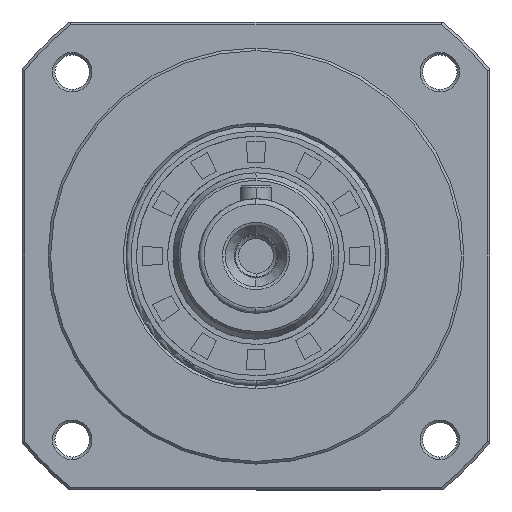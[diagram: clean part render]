
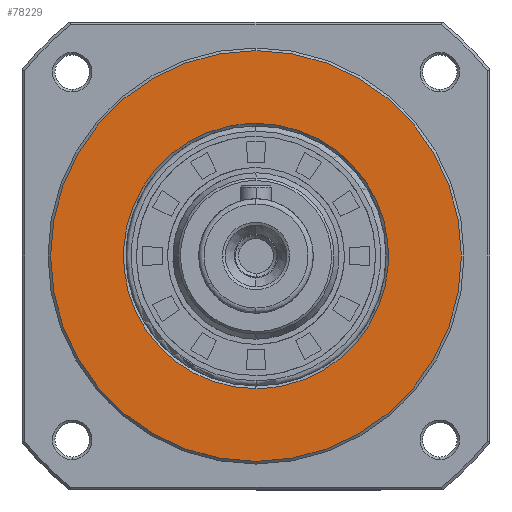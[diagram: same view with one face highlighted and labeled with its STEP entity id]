
A CAD part, left-side view. The second image highlights one B-rep face of the part: STEP entity #78229.
In plain terms, the highlighted planar face has unit normal (-1, 0, 0).
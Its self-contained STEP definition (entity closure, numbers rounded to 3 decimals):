
#996 = CARTESIAN_POINT ( 'NONE',  ( 0., 1.674, -25.5 ) ) ;
#2250 = DIRECTION ( 'NONE',  ( 0., 0., -1. ) ) ;
#2404 = CARTESIAN_POINT ( 'NONE',  ( 0., -16.848, -19.215 ) ) ;
#2755 = CARTESIAN_POINT ( 'NONE',  ( 0., 0., -25.5 ) ) ;
#3087 = CARTESIAN_POINT ( 'NONE',  ( 0., 24.2, 8.212 ) ) ;
#3290 = CARTESIAN_POINT ( 'NONE',  ( 0., -39.974, 39.974 ) ) ;
#4096 = EDGE_CURVE ( 'NONE', #65123, #83948, #41335, .T. ) ;
#8485 = CARTESIAN_POINT ( 'NONE',  ( 0., -3.333, 25.337 ) ) ;
#9551 = CARTESIAN_POINT ( 'NONE',  ( 0., -1.674, -25.5 ) ) ;
#9905 = CARTESIAN_POINT ( 'NONE',  ( 0., 3.333, 25.337 ) ) ;
#10240 = CARTESIAN_POINT ( 'NONE',  ( 0., 24.2, -8.212 ) ) ;
#10245 = CARTESIAN_POINT ( 'NONE',  ( 0., -22.132, -12.775 ) ) ;
#10593 = CARTESIAN_POINT ( 'NONE',  ( 0., 11.305, -22.918 ) ) ;
#10597 = CARTESIAN_POINT ( 'NONE',  ( 0., -12.775, -22.133 ) ) ;
#10946 = CARTESIAN_POINT ( 'NONE',  ( 0., -22.918, 11.305 ) ) ;
#11135 = PLANE ( 'NONE',  #36632 ) ;
#13958 = CIRCLE ( 'NONE', #34849, 39.5 ) ;
#16751 = AXIS2_PLACEMENT_3D ( 'NONE', #91808, #59448, #92499 ) ;
#17376 = CARTESIAN_POINT ( 'NONE',  ( 0., -8.212, -24.2 ) ) ;
#18420 = CARTESIAN_POINT ( 'NONE',  ( 0., 8.212, 24.2 ) ) ;
#18618 = ORIENTED_EDGE ( 'NONE', *, *, #85275, .T. ) ;
#18624 = DIRECTION ( 'NONE',  ( 1., 0., 0. ) ) ;
#18780 = CARTESIAN_POINT ( 'NONE',  ( 0., -20.272, 15.559 ) ) ;
#19115 = CARTESIAN_POINT ( 'NONE',  ( 0., 25.5, 1.674 ) ) ;
#20089 = FACE_BOUND ( 'NONE', #70609, .T. ) ;
#25924 = CARTESIAN_POINT ( 'NONE',  ( 0., 1.675, 25.5 ) ) ;
#26282 = CARTESIAN_POINT ( 'NONE',  ( 0., 22.918, 11.305 ) ) ;
#26286 = CARTESIAN_POINT ( 'NONE',  ( 0., -6.617, -24.683 ) ) ;
#26979 = CARTESIAN_POINT ( 'NONE',  ( 0., -11.305, -22.918 ) ) ;
#29717 = EDGE_CURVE ( 'NONE', #83948, #65123, #13958, .T. ) ;
#32689 = CARTESIAN_POINT ( 'NONE',  ( 0., -1.674, 25.5 ) ) ;
#34460 = CARTESIAN_POINT ( 'NONE',  ( 0., -25.337, 3.333 ) ) ;
#34849 = AXIS2_PLACEMENT_3D ( 'NONE', #72835, #79979, #73185 ) ;
#35371 = ORIENTED_EDGE ( 'NONE', *, *, #29717, .F. ) ;
#36632 = AXIS2_PLACEMENT_3D ( 'NONE', #3290, #18624, #2250 ) ;
#37085 = VERTEX_POINT ( 'NONE', #76371 ) ;
#38087 = VERTEX_POINT ( 'NONE', #69382 ) ;
#40546 = CARTESIAN_POINT ( 'NONE',  ( 0., 0., 25.5 ) ) ;
#41242 = CARTESIAN_POINT ( 'NONE',  ( 0., -8.212, 24.2 ) ) ;
#41335 = CIRCLE ( 'NONE', #16751, 39.5 ) ;
#41962 = CARTESIAN_POINT ( 'NONE',  ( 0., -24.683, 6.617 ) ) ;
#42305 = CARTESIAN_POINT ( 'NONE',  ( 0., 24.683, 6.617 ) ) ;
#42312 = CARTESIAN_POINT ( 'NONE',  ( 0., -3.333, -25.337 ) ) ;
#42661 = CARTESIAN_POINT ( 'NONE',  ( 0., -25.337, -3.333 ) ) ;
#49443 = FACE_OUTER_BOUND ( 'NONE', #94910, .T. ) ;
#49808 = CARTESIAN_POINT ( 'NONE',  ( 0., 0., -25.5 ) ) ;
#50520 = CARTESIAN_POINT ( 'NONE',  ( 0., 20.272, -15.559 ) ) ;
#50525 = CARTESIAN_POINT ( 'NONE',  ( 0., -16.848, 19.215 ) ) ;
#50743 = EDGE_CURVE ( 'NONE', #38087, #37085, #81233, .T. ) ;
#50870 = CARTESIAN_POINT ( 'NONE',  ( 0., 22.132, 12.775 ) ) ;
#51215 = CARTESIAN_POINT ( 'NONE',  ( 0., -24.2, 8.212 ) ) ;
#51575 = CARTESIAN_POINT ( 'NONE',  ( 0., -15.559, -20.272 ) ) ;
#51903 = CARTESIAN_POINT ( 'NONE',  ( 0., 12.775, -22.132 ) ) ;
#54202 = ORIENTED_EDGE ( 'NONE', *, *, #50743, .T. ) ;
#58007 = CARTESIAN_POINT ( 'NONE',  ( 0., 6.617, -24.683 ) ) ;
#58384 = CARTESIAN_POINT ( 'NONE',  ( 0., -24.683, -6.617 ) ) ;
#58720 = CARTESIAN_POINT ( 'NONE',  ( 0., 15.559, -20.272 ) ) ;
#59420 = CARTESIAN_POINT ( 'NONE',  ( 0., 22.918, -11.305 ) ) ;
#59448 = DIRECTION ( 'NONE',  ( 1., 0., 0. ) ) ;
#60131 = CARTESIAN_POINT ( 'NONE',  ( 0., 15.559, 20.272 ) ) ;
#65123 = VERTEX_POINT ( 'NONE', #98822 ) ;
#66221 = CARTESIAN_POINT ( 'NONE',  ( 0., 8.212, -24.2 ) ) ;
#66577 = CARTESIAN_POINT ( 'NONE',  ( 0., -22.918, -11.305 ) ) ;
#66924 = CARTESIAN_POINT ( 'NONE',  ( 0., 19.215, -16.848 ) ) ;
#69382 = CARTESIAN_POINT ( 'NONE',  ( 0., 0., -25.5 ) ) ;
#70609 = EDGE_LOOP ( 'NONE', ( #18618, #54202 ) ) ;
#72835 = CARTESIAN_POINT ( 'NONE',  ( 0., 0., 0. ) ) ;
#73185 = DIRECTION ( 'NONE',  ( 0., 0., -1. ) ) ;
#74780 = CARTESIAN_POINT ( 'NONE',  ( 0., 20.272, 15.559 ) ) ;
#75126 = CARTESIAN_POINT ( 'NONE',  ( 0., 25.5, -1.674 ) ) ;
#75827 = CARTESIAN_POINT ( 'NONE',  ( 0., -25.5, -1.674 ) ) ;
#76371 = CARTESIAN_POINT ( 'NONE',  ( 0., 0., 25.5 ) ) ;
#78229 = ADVANCED_FACE ( 'NONE', ( #20089, #49443 ), #11135, .F. ) ;
#79979 = DIRECTION ( 'NONE',  ( 1., 0., 0. ) ) ;
#81233 = B_SPLINE_CURVE_WITH_KNOTS ( 'NONE', 3,
 ( #49808, #996, #90737, #58007, #66221, #10593, #51903, #58720, #84006, #66924, #50520, #99606, #59420, #10240, #92468, #100648, #75126, #19115, #91435, #42305, #3087, #26282, #50870, #74780, #92126, #83658, #60131, #99939, #91784, #18420, #83306, #9905, #25924, #82959 ),
 .UNSPECIFIED., .F., .F.,
 ( 4, 2, 2, 2, 2, 2, 2, 2, 2, 2, 2, 2, 2, 2, 2, 2, 4 ),
 ( 0.5, 0.531, 0.563, 0.594, 0.625, 0.656, 0.688, 0.719, 0.75, 0.781, 0.813, 0.844, 0.875, 0.906, 0.938, 0.969, 1. ),
 .UNSPECIFIED. ) ;
#82600 = CARTESIAN_POINT ( 'NONE',  ( 0., -19.215, -16.848 ) ) ;
#82959 = CARTESIAN_POINT ( 'NONE',  ( 0., 0., 25.5 ) ) ;
#83306 = CARTESIAN_POINT ( 'NONE',  ( 0., 6.617, 24.683 ) ) ;
#83310 = CARTESIAN_POINT ( 'NONE',  ( 0., -22.133, 12.775 ) ) ;
#83658 = CARTESIAN_POINT ( 'NONE',  ( 0., 16.848, 19.215 ) ) ;
#83948 = VERTEX_POINT ( 'NONE', #84342 ) ;
#84006 = CARTESIAN_POINT ( 'NONE',  ( 0., 16.848, -19.215 ) ) ;
#84342 = CARTESIAN_POINT ( 'NONE',  ( 0., 0., 39.5 ) ) ;
#85275 = EDGE_CURVE ( 'NONE', #37085, #38087, #98153, .T. ) ;
#87889 = ORIENTED_EDGE ( 'NONE', *, *, #4096, .F. ) ;
#90037 = CARTESIAN_POINT ( 'NONE',  ( 0., -6.617, 24.683 ) ) ;
#90737 = CARTESIAN_POINT ( 'NONE',  ( 0., 3.333, -25.337 ) ) ;
#91103 = CARTESIAN_POINT ( 'NONE',  ( 0., -19.215, 16.848 ) ) ;
#91435 = CARTESIAN_POINT ( 'NONE',  ( 0., 25.337, 3.333 ) ) ;
#91442 = CARTESIAN_POINT ( 'NONE',  ( 0., -25.5, 1.674 ) ) ;
#91784 = CARTESIAN_POINT ( 'NONE',  ( 0., 11.305, 22.918 ) ) ;
#91789 = CARTESIAN_POINT ( 'NONE',  ( 0., -15.559, 20.272 ) ) ;
#91808 = CARTESIAN_POINT ( 'NONE',  ( 0., 0., 0. ) ) ;
#92126 = CARTESIAN_POINT ( 'NONE',  ( 0., 19.215, 16.848 ) ) ;
#92468 = CARTESIAN_POINT ( 'NONE',  ( 0., 24.683, -6.617 ) ) ;
#92499 = DIRECTION ( 'NONE',  ( 0., 0., -1. ) ) ;
#94910 = EDGE_LOOP ( 'NONE', ( #87889, #35371 ) ) ;
#98153 = B_SPLINE_CURVE_WITH_KNOTS ( 'NONE', 3,
 ( #40546, #32689, #8485, #90037, #41242, #98168, #99945, #91789, #50525, #91103, #18780, #83310, #10946, #51215, #41962, #34460, #91442, #75827, #42661, #58384, #100288, #66577, #10245, #99610, #82600, #2404, #51575, #10597, #26979, #17376, #26286, #42312, #9551, #2755 ),
 .UNSPECIFIED., .F., .F.,
 ( 4, 2, 2, 2, 2, 2, 2, 2, 2, 2, 2, 2, 2, 2, 2, 2, 4 ),
 ( 0., 0.031, 0.063, 0.094, 0.125, 0.156, 0.188, 0.219, 0.25, 0.281, 0.313, 0.344, 0.375, 0.406, 0.438, 0.469, 0.5 ),
 .UNSPECIFIED. ) ;
#98168 = CARTESIAN_POINT ( 'NONE',  ( 0., -11.305, 22.918 ) ) ;
#98822 = CARTESIAN_POINT ( 'NONE',  ( 0., 0., -39.5 ) ) ;
#99606 = CARTESIAN_POINT ( 'NONE',  ( 0., 22.133, -12.775 ) ) ;
#99610 = CARTESIAN_POINT ( 'NONE',  ( 0., -20.272, -15.559 ) ) ;
#99939 = CARTESIAN_POINT ( 'NONE',  ( 0., 12.775, 22.133 ) ) ;
#99945 = CARTESIAN_POINT ( 'NONE',  ( 0., -12.775, 22.132 ) ) ;
#100288 = CARTESIAN_POINT ( 'NONE',  ( 0., -24.2, -8.212 ) ) ;
#100648 = CARTESIAN_POINT ( 'NONE',  ( 0., 25.337, -3.333 ) ) ;
